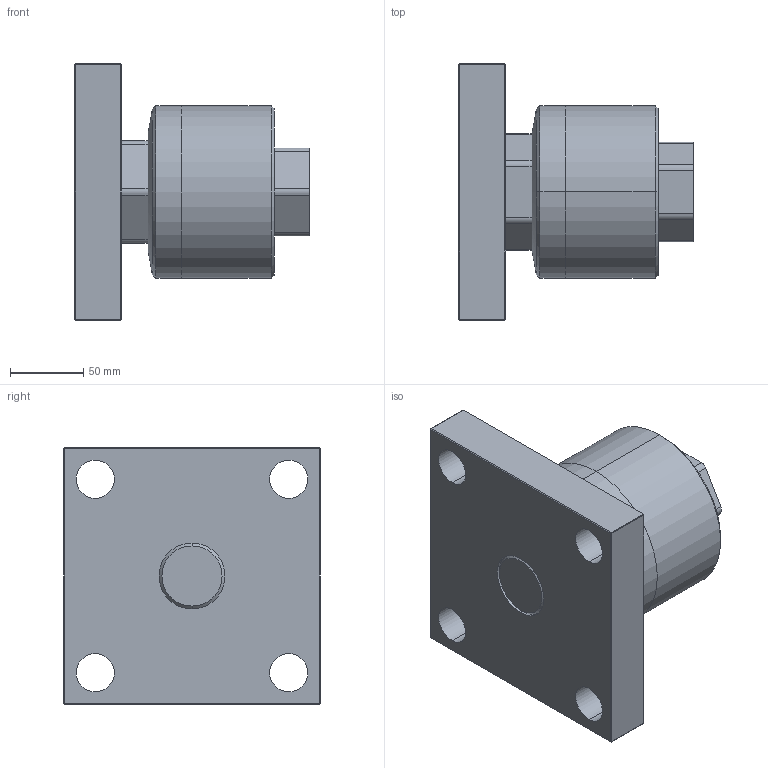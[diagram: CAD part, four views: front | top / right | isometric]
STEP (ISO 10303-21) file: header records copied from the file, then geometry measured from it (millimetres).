
FILE_DESCRIPTION (( 'STEP AP203' ), '1' );
FILE_NAME ('FCM45-1.5-F.STEP', '2016-04-14T02:02:15', ( '' ), ( '' ), 'SwSTEP 2.0', 'SolidWorks 2014', '' );
FILE_SCHEMA (( 'CONFIG_CONTROL_DESIGN' ));
Length unit declared in the file: millimetre
Products named in the file (3): FCM45-F; FCM45-1.5(F); FCM45-1.5-F
Assembly tree (2 placements, depth 2):
  FCM45-1.5-F
    FCM45-1.5(F)
    FCM45-F
Bounding box: 160 x 175 x 175 mm (x, y, z)
Volume: 1933523.4 mm3; surface area: 161185.1 mm2
Topology: 2 solids, 2 shells, 82 faces, 188 edges, 114 vertices
Faces by surface type: plane 44, cylinder 30, cone 8
Entity records: 2611 total; most frequent: DIRECTION 428, CARTESIAN_POINT 389, ORIENTED_EDGE 376, EDGE_CURVE 188, AXIS2_PLACEMENT_3D 153, VECTOR 122, LINE 122, VERTEX_POINT 114
